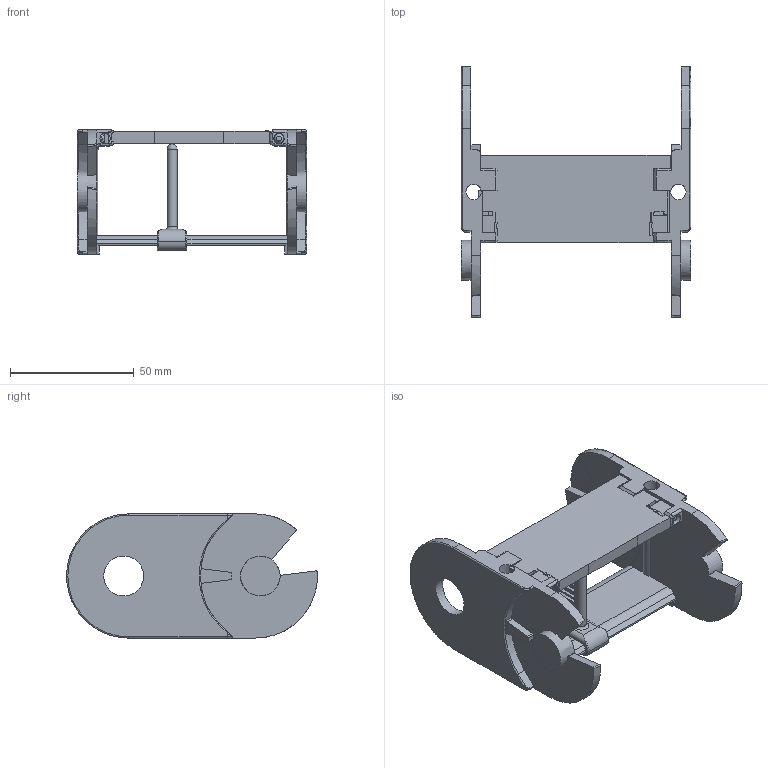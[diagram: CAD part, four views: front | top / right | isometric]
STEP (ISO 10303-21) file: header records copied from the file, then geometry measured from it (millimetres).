
FILE_DESCRIPTION((''),'2;1');
FILE_NAME('C:\Uebbing\PARAMETERKETTEN\KOLIBRI\Kol_50_095_2\Kol_50_095_2.stp','2011-11-02T13:30:46',('Uebbing'),(''),'Autodesk Inventor 10','Autodesk Inventor 10','');
FILE_SCHEMA(('AUTOMOTIVE_DESIGN { 1 0 10303 214 1 1 1 1 }'));
Length unit declared in the file: millimetre
Products named in the file (4): Kol_50_095_2; Kol_50_095_2_Lasche; Kol_50_95_0_Klappsteg; Kol_50_095_2 PZ 
Assembly tree (3 placements, depth 2):
  Kol_50_095_2
    Kol_50_095_2_Lasche
    Kol_50_95_0_Klappsteg
    Kol_50_095_2 PZ 
Bounding box: 92.88 x 101.47 x 50.25 mm (x, y, z)
Volume: 59085.5 mm3; surface area: 39775.4 mm2
Topology: 3 solids, 3 shells, 867 faces, 2285 edges, 1490 vertices
Faces by surface type: plane 465, cylinder 191, bspline 185, torus 20, sphere 4, cone 2
Full cylindrical faces by diameter (mm): 2.021 x1, 3.549 x1, 4 x1, 4.036 x1, 4.221 x2, 6.231 x1, 16.08 x1, 16.18 x1
Entity records: 31440 total; most frequent: CARTESIAN_POINT 10353, ORIENTED_EDGE 4494, DIRECTION 4103, EDGE_CURVE 2247, VECTOR 1599, LINE 1599, VERTEX_POINT 1476, AXIS2_PLACEMENT_3D 1252
